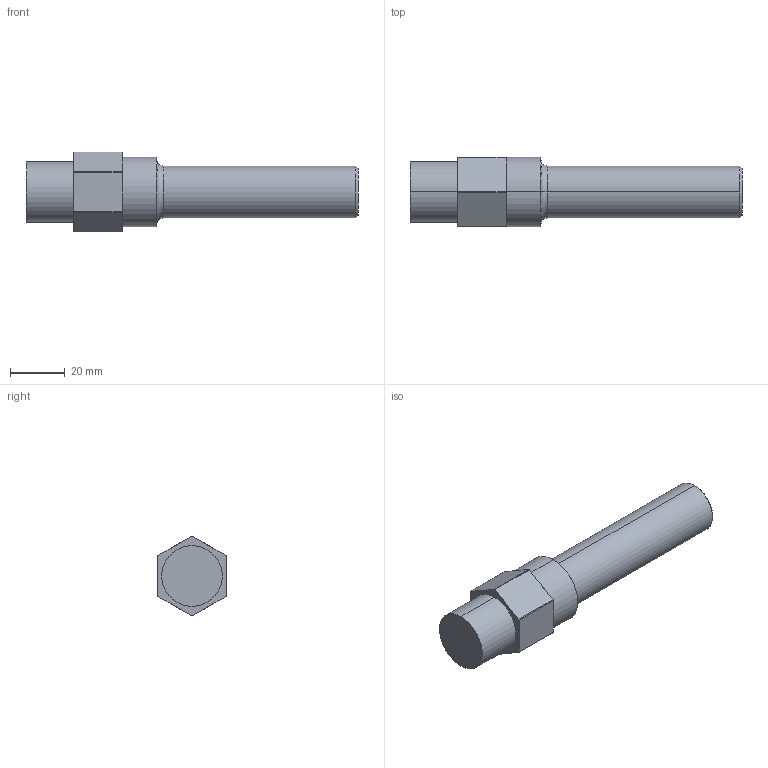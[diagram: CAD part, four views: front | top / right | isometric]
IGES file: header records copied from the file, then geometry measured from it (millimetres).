
Start section: SolidWorks IGES file using analytic representation for surfaces
Global section: file name: S:\Product Visuals\Defeatured Models and Parts Library\Parts Library IGES & STEP\Liquid Fittings\Front Mount liquid Fittings\Tubeout\30LPM\Fitting Tubeout 12.IGS; native system: SolidWorks 2012; preprocessor: SolidWorks 2012; author: rachel.dressel; date: 120926.154108; units: inch
Bounding box: 121.72 x 25.4 x 29.16 mm (x, y, z)
Volume: 44227.3 mm3; surface area: 9238.9 mm2
Topology: 1 solids, 1 shells, 33 faces, 77 edges, 48 vertices
Faces by surface type: revolution 17, plane 16
